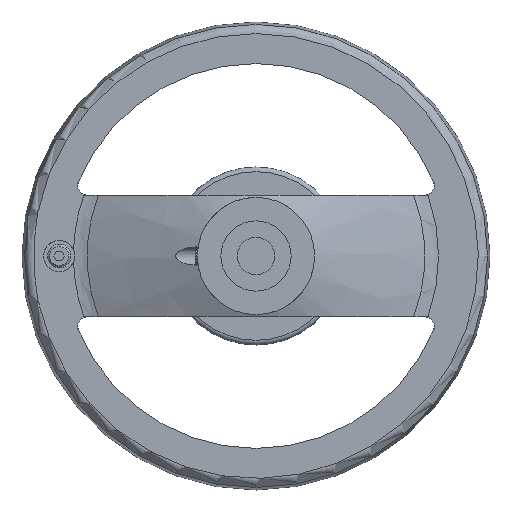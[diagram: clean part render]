
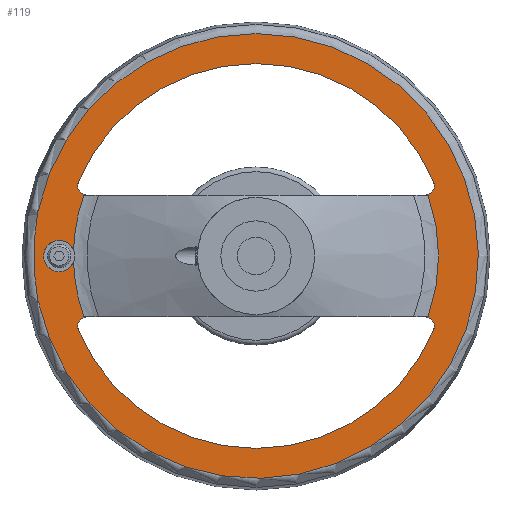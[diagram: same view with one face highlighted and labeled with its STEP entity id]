
A CAD part, left-side view. The second image highlights one B-rep face of the part: STEP entity #119.
In plain terms, the highlighted planar face has unit normal (-1, 0, 0).
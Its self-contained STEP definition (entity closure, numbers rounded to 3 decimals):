
#119 = ADVANCED_FACE( '', ( #282, #283, #284, #285 ), #286, .F. );
#282 = FACE_BOUND( '', #512, .T. );
#283 = FACE_OUTER_BOUND( '', #513, .T. );
#284 = FACE_BOUND( '', #514, .T. );
#285 = FACE_BOUND( '', #515, .T. );
#286 = PLANE( '', #516 );
#512 = EDGE_LOOP( '', ( #939, #940, #941, #942, #943, #944 ) );
#513 = EDGE_LOOP( '', ( #945, #946, #947, #948, #949, #950 ) );
#514 = EDGE_LOOP( '', ( #951, #952, #953, #954 ) );
#515 = EDGE_LOOP( '', ( #955, #956, #957, #958 ) );
#516 = AXIS2_PLACEMENT_3D( '', #959, #960, #961 );
#939 = ORIENTED_EDGE( '', *, *, #1399, .F. );
#940 = ORIENTED_EDGE( '', *, *, #1299, .F. );
#941 = ORIENTED_EDGE( '', *, *, #1302, .F. );
#942 = ORIENTED_EDGE( '', *, *, #1364, .F. );
#943 = ORIENTED_EDGE( '', *, *, #1304, .F. );
#944 = ORIENTED_EDGE( '', *, *, #1401, .F. );
#945 = ORIENTED_EDGE( '', *, *, #1361, .F. );
#946 = ORIENTED_EDGE( '', *, *, #1358, .T. );
#947 = ORIENTED_EDGE( '', *, *, #1354, .F. );
#948 = ORIENTED_EDGE( '', *, *, #1402, .F. );
#949 = ORIENTED_EDGE( '', *, *, #1356, .T. );
#950 = ORIENTED_EDGE( '', *, *, #1403, .F. );
#951 = ORIENTED_EDGE( '', *, *, #1307, .F. );
#952 = ORIENTED_EDGE( '', *, *, #1311, .F. );
#953 = ORIENTED_EDGE( '', *, *, #1314, .F. );
#954 = ORIENTED_EDGE( '', *, *, #1404, .F. );
#955 = ORIENTED_EDGE( '', *, *, #1317, .F. );
#956 = ORIENTED_EDGE( '', *, *, #1321, .F. );
#957 = ORIENTED_EDGE( '', *, *, #1324, .F. );
#958 = ORIENTED_EDGE( '', *, *, #1405, .F. );
#959 = CARTESIAN_POINT( '', ( 33., -94.9, 0. ) );
#960 = DIRECTION( '', ( 1., 0., 0. ) );
#961 = DIRECTION( '', ( 0., 0., -1. ) );
#1299 = EDGE_CURVE( '', #1505, #1507, #1508, .T. );
#1302 = EDGE_CURVE( '', #1510, #1505, #1513, .T. );
#1304 = EDGE_CURVE( '', #1514, #1511, #1516, .T. );
#1307 = EDGE_CURVE( '', #1520, #1522, #1523, .F. );
#1311 = EDGE_CURVE( '', #1527, #1520, #1529, .F. );
#1314 = EDGE_CURVE( '', #1532, #1527, #1534, .F. );
#1317 = EDGE_CURVE( '', #1538, #1540, #1541, .F. );
#1321 = EDGE_CURVE( '', #1545, #1538, #1547, .T. );
#1324 = EDGE_CURVE( '', #1550, #1545, #1552, .F. );
#1354 = EDGE_CURVE( '', #1605, #1603, #1607, .T. );
#1356 = EDGE_CURVE( '', #1610, #1611, #1612, .T. );
#1358 = EDGE_CURVE( '', #1614, #1603, #1615, .T. );
#1361 = EDGE_CURVE( '', #1614, #1619, #1620, .T. );
#1364 = EDGE_CURVE( '', #1511, #1510, #1624, .F. );
#1399 = EDGE_CURVE( '', #1507, #1688, #1689, .T. );
#1401 = EDGE_CURVE( '', #1688, #1514, #1691, .T. );
#1402 = EDGE_CURVE( '', #1610, #1605, #1692, .T. );
#1403 = EDGE_CURVE( '', #1619, #1611, #1693, .T. );
#1404 = EDGE_CURVE( '', #1522, #1532, #1694, .T. );
#1405 = EDGE_CURVE( '', #1540, #1550, #1695, .F. );
#1505 = VERTEX_POINT( '', #1983 );
#1507 = VERTEX_POINT( '', #1992 );
#1508 = LINE( '', #1993, #1994 );
#1510 = VERTEX_POINT( '', #2005 );
#1511 = VERTEX_POINT( '', #2006 );
#1513 = CIRCLE( '', #2019, 77.924 );
#1514 = VERTEX_POINT( '', #2020 );
#1516 = CIRCLE( '', #2029, 77.924 );
#1520 = VERTEX_POINT( '', #2054 );
#1522 = VERTEX_POINT( '', #2057 );
#1523 = CIRCLE( '', #2058, 4. );
#1527 = VERTEX_POINT( '', #2063 );
#1529 = CIRCLE( '', #2066, 82.1 );
#1532 = VERTEX_POINT( '', #2092 );
#1534 = CIRCLE( '', #2095, 4. );
#1538 = VERTEX_POINT( '', #2122 );
#1540 = VERTEX_POINT( '', #2125 );
#1541 = CIRCLE( '', #2126, 4. );
#1545 = VERTEX_POINT( '', #2156 );
#1547 = LINE( '', #2159, #2160 );
#1550 = VERTEX_POINT( '', #2184 );
#1552 = CIRCLE( '', #2187, 4. );
#1603 = VERTEX_POINT( '', #2305 );
#1605 = VERTEX_POINT( '', #2311 );
#1607 = LINE( '', #2314, #2315 );
#1610 = VERTEX_POINT( '', #2318 );
#1611 = VERTEX_POINT( '', #2319 );
#1612 = CIRCLE( '', #2320, 94.9 );
#1614 = VERTEX_POINT( '', #2326 );
#1615 = CIRCLE( '', #2327, 94.9 );
#1619 = VERTEX_POINT( '', #2340 );
#1620 = LINE( '', #2341, #2342 );
#1624 = CIRCLE( '', #2347, 6.667 );
#1688 = VERTEX_POINT( '', #2458 );
#1689 = CIRCLE( '', #2459, 77.924 );
#1691 = LINE( '', #2469, #2470 );
#1692 = LINE( '', #2471, #2472 );
#1693 = LINE( '', #2473, #2474 );
#1694 = LINE( '', #2475, #2476 );
#1695 = CIRCLE( '', #2477, 82.1 );
#1983 = CARTESIAN_POINT( '', ( 33., 73.459, -25.999 ) );
#1992 = CARTESIAN_POINT( '', ( 33., -73.459, -25.999 ) );
#1993 = CARTESIAN_POINT( '', ( 33., 200., -25.999 ) );
#1994 = VECTOR( '', #2667, 1000. );
#2005 = CARTESIAN_POINT( '', ( 33., 77.879, -2.642 ) );
#2006 = CARTESIAN_POINT( '', ( 33., 77.879, 2.642 ) );
#2019 = AXIS2_PLACEMENT_3D( '', #2668, #2669, #2670 );
#2020 = CARTESIAN_POINT( '', ( 33., 73.459, 25.999 ) );
#2029 = AXIS2_PLACEMENT_3D( '', #2671, #2672, #2673 );
#2054 = CARTESIAN_POINT( '', ( 33., 75.801, 31.536 ) );
#2057 = CARTESIAN_POINT( '', ( 33., 72.108, 26. ) );
#2058 = AXIS2_PLACEMENT_3D( '', #2675, #2676, #2677 );
#2063 = CARTESIAN_POINT( '', ( 33., -75.801, 31.536 ) );
#2066 = AXIS2_PLACEMENT_3D( '', #2683, #2684, #2685 );
#2092 = CARTESIAN_POINT( '', ( 33., -72.108, 26. ) );
#2095 = AXIS2_PLACEMENT_3D( '', #2687, #2688, #2689 );
#2122 = CARTESIAN_POINT( '', ( 33., 72.108, -26. ) );
#2125 = CARTESIAN_POINT( '', ( 33., 75.801, -31.536 ) );
#2126 = AXIS2_PLACEMENT_3D( '', #2691, #2692, #2693 );
#2156 = CARTESIAN_POINT( '', ( 33., -72.108, -26. ) );
#2159 = CARTESIAN_POINT( '', ( 33., -94.9, -26. ) );
#2160 = VECTOR( '', #2696, 1000. );
#2184 = CARTESIAN_POINT( '', ( 33., -75.801, -31.536 ) );
#2187 = AXIS2_PLACEMENT_3D( '', #2698, #2699, #2700 );
#2305 = CARTESIAN_POINT( '', ( 33., 92.855, 19.596 ) );
#2311 = CARTESIAN_POINT( '', ( 33., 93.25, 19.596 ) );
#2314 = CARTESIAN_POINT( '', ( 33., 93.25, 19.596 ) );
#2315 = VECTOR( '', #2741, 1000. );
#2318 = CARTESIAN_POINT( '', ( 33., 93.25, 17.619 ) );
#2319 = CARTESIAN_POINT( '', ( 33., 93.25, -17.619 ) );
#2320 = AXIS2_PLACEMENT_3D( '', #2745, #2746, #2747 );
#2326 = CARTESIAN_POINT( '', ( 33., 92.855, -19.596 ) );
#2327 = AXIS2_PLACEMENT_3D( '', #2748, #2749, #2750 );
#2340 = CARTESIAN_POINT( '', ( 33., 93.25, -19.596 ) );
#2341 = CARTESIAN_POINT( '', ( 33., 91.25, -19.596 ) );
#2342 = VECTOR( '', #2751, 1000. );
#2347 = AXIS2_PLACEMENT_3D( '', #2756, #2757, #2758 );
#2458 = CARTESIAN_POINT( '', ( 33., -73.459, 25.999 ) );
#2459 = AXIS2_PLACEMENT_3D( '', #2837, #2838, #2839 );
#2469 = CARTESIAN_POINT( '', ( 33., -200., 25.999 ) );
#2470 = VECTOR( '', #2840, 1000. );
#2471 = CARTESIAN_POINT( '', ( 33., 93.25, -19.596 ) );
#2472 = VECTOR( '', #2841, 1000. );
#2473 = CARTESIAN_POINT( '', ( 33., 93.25, -19.596 ) );
#2474 = VECTOR( '', #2842, 1000. );
#2475 = CARTESIAN_POINT( '', ( 33., -94.9, 26. ) );
#2476 = VECTOR( '', #2843, 1000. );
#2477 = AXIS2_PLACEMENT_3D( '', #2844, #2845, #2846 );
#2667 = DIRECTION( '', ( 0., -1., 0. ) );
#2668 = CARTESIAN_POINT( '', ( 33., 0., 0. ) );
#2669 = DIRECTION( '', ( -1., 0., 0. ) );
#2670 = DIRECTION( '', ( 0., 0., 1. ) );
#2671 = CARTESIAN_POINT( '', ( 33., 0., 0. ) );
#2672 = DIRECTION( '', ( -1., 0., 0. ) );
#2673 = DIRECTION( '', ( 0., 0., 1. ) );
#2675 = CARTESIAN_POINT( '', ( 33., 72.108, 30. ) );
#2676 = DIRECTION( '', ( 1., 0., 0. ) );
#2677 = DIRECTION( '', ( 0., 0., -1. ) );
#2683 = CARTESIAN_POINT( '', ( 33., 0., 0. ) );
#2684 = DIRECTION( '', ( 1., 0., 0. ) );
#2685 = DIRECTION( '', ( 0., 0., -1. ) );
#2687 = CARTESIAN_POINT( '', ( 33., -72.108, 30. ) );
#2688 = DIRECTION( '', ( 1., 0., 0. ) );
#2689 = DIRECTION( '', ( 0., 0., -1. ) );
#2691 = CARTESIAN_POINT( '', ( 33., 72.108, -30. ) );
#2692 = DIRECTION( '', ( 1., 0., 0. ) );
#2693 = DIRECTION( '', ( 0., 0., -1. ) );
#2696 = DIRECTION( '', ( 0., 1., 0. ) );
#2698 = CARTESIAN_POINT( '', ( 33., -72.108, -30. ) );
#2699 = DIRECTION( '', ( 1., 0., 0. ) );
#2700 = DIRECTION( '', ( 0., 0., -1. ) );
#2741 = DIRECTION( '', ( 0., -1., 0. ) );
#2745 = CARTESIAN_POINT( '', ( 33., 0., 0. ) );
#2746 = DIRECTION( '', ( -1., 0., 0. ) );
#2747 = DIRECTION( '', ( 0., 0., 1. ) );
#2748 = CARTESIAN_POINT( '', ( 33., 0., 0. ) );
#2749 = DIRECTION( '', ( -1., 0., 0. ) );
#2750 = DIRECTION( '', ( 0., 0., 1. ) );
#2751 = DIRECTION( '', ( 0., 1., 0. ) );
#2756 = CARTESIAN_POINT( '', ( 33., 84., 0. ) );
#2757 = DIRECTION( '', ( 1., 0., 0. ) );
#2758 = DIRECTION( '', ( 0., 0., -1. ) );
#2837 = CARTESIAN_POINT( '', ( 33., 0., 0. ) );
#2838 = DIRECTION( '', ( -1., 0., 0. ) );
#2839 = DIRECTION( '', ( 0., 0., 1. ) );
#2840 = DIRECTION( '', ( 0., 1., 0. ) );
#2841 = DIRECTION( '', ( 0., 0., 1. ) );
#2842 = DIRECTION( '', ( 0., 0., 1. ) );
#2843 = DIRECTION( '', ( 0., -1., 0. ) );
#2844 = CARTESIAN_POINT( '', ( 33., 0., 0. ) );
#2845 = DIRECTION( '', ( 1., 0., 0. ) );
#2846 = DIRECTION( '', ( 0., 0., -1. ) );
